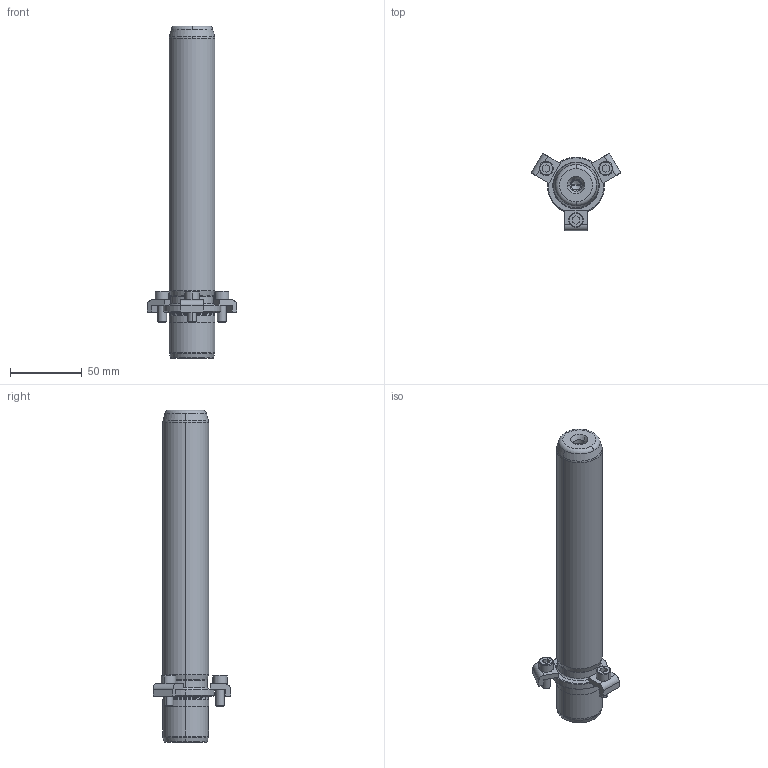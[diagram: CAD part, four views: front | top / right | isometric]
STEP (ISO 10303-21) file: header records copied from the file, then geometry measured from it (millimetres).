
FILE_DESCRIPTION((''),'2;1');
FILE_NAME('P21_032_200.stp','2008-12-23T10:34:41',(''),(''),'Mechanical Desktop 2009','Mechanical Desktop 2009',', , ');
FILE_SCHEMA(('CONFIG_CONTROL_DESIGN'));
Length unit declared in the file: millimetre
Products named in the file (2): Product; blmdl1
Assembly tree (1 placements, depth 2):
  Product
    blmdl1
Bounding box: 62.51 x 54.13 x 232 mm (x, y, z)
Volume: 189976.3 mm3; surface area: 31208.6 mm2
Topology: 7 solids, 7 shells, 163 faces, 399 edges, 257 vertices
Faces by surface type: plane 59, cylinder 44, cone 32, torus 14, bspline 14
Entity records: 5517 total; most frequent: CARTESIAN_POINT 1433, DIRECTION 908, ORIENTED_EDGE 790, EDGE_CURVE 395, AXIS2_PLACEMENT_3D 362, VERTEX_POINT 257, CIRCLE 211, VECTOR 184
